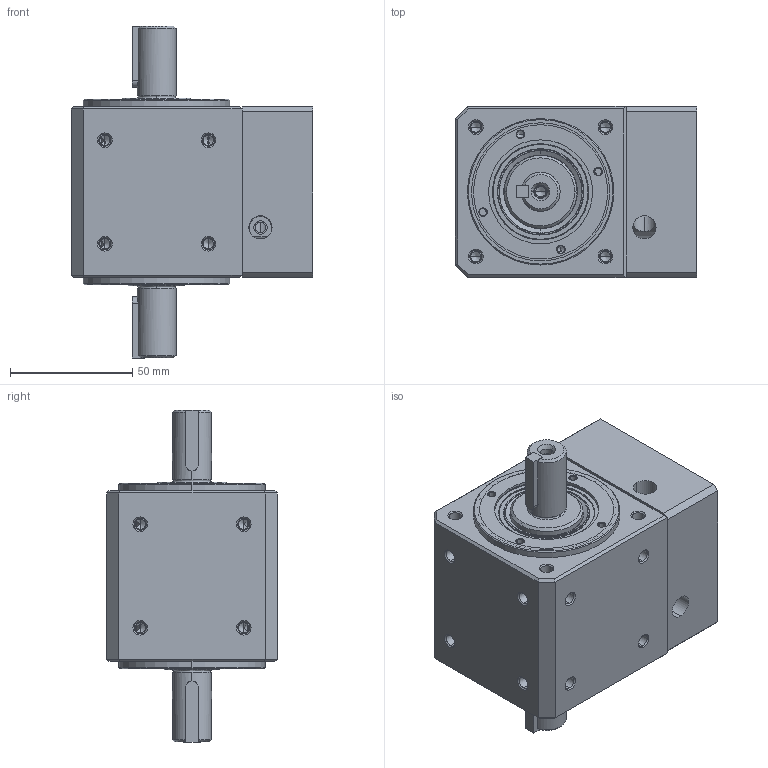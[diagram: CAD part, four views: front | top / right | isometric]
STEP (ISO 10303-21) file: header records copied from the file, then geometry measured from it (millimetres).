
FILE_DESCRIPTION (( 'STEP AP203' ), '1' );
FILE_NAME ('WS70DSF-2-14-50-70-M5(20130911).STEP', '2016-01-22T07:30:47', ( '稬硁ノめ' ), ( '芖稬硁' ), 'SwSTEP 2.0', 'SolidWorks 2012', '' );
FILE_SCHEMA (( 'CONFIG_CONTROL_DESIGN' ));
Length unit declared in the file: millimetre
Products named in the file (1): WS70DSF-2-14-50-70-M5(20130911)
Bounding box: 99 x 70 x 136 mm (x, y, z)
Volume: 351403.4 mm3; surface area: 108148.5 mm2
Topology: 10 solids, 10 shells, 784 faces, 1895 edges, 1144 vertices
Faces by surface type: cylinder 291, cone 289, plane 152, bspline 52
Entity records: 25740 total; most frequent: CARTESIAN_POINT 7254, DIRECTION 4151, ORIENTED_EDGE 3646, EDGE_CURVE 1823, AXIS2_PLACEMENT_3D 1713, VERTEX_POINT 1144, CIRCLE 980, EDGE_LOOP 937
